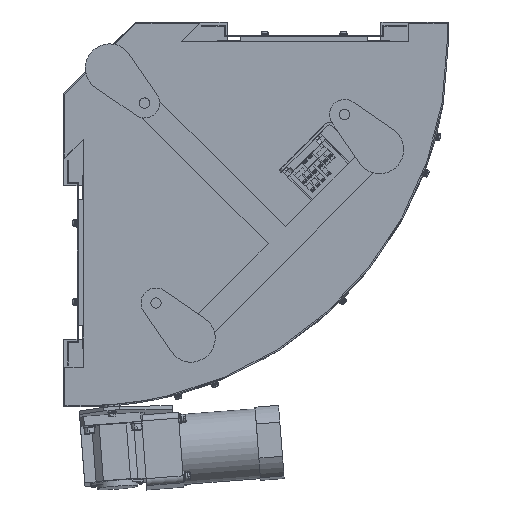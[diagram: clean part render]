
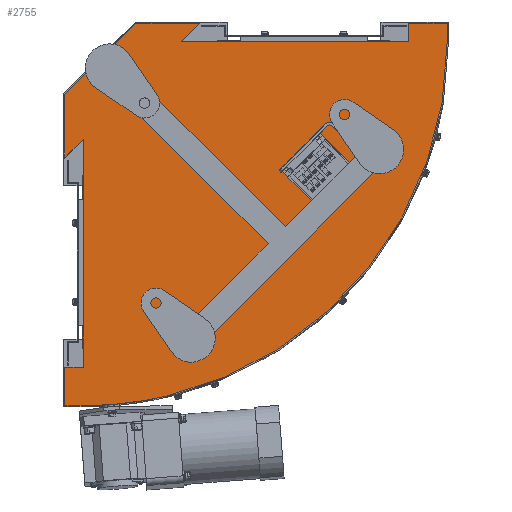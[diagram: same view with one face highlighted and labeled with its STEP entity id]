
A CAD part, front view. The second image highlights one B-rep face of the part: STEP entity #2755.
In plain terms, the highlighted planar face has unit normal (0, -1, 0).
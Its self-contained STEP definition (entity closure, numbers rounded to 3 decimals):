
#2755=ADVANCED_FACE('',(#17473),#17472,.F.);
#17472=PLANE('',#28275);
#17473=FACE_OUTER_BOUND('',#28276,.T.);
#28272=CARTESIAN_POINT('',(-33.4,-145.7,-471.5));
#28273=DIRECTION('',(0.,1.,0.));
#28274=DIRECTION('',(0.,0.,1.));
#28275=AXIS2_PLACEMENT_3D('',#28272,#28273,#28274);
#28276=EDGE_LOOP('',(#37565,#37566,#37567,#37568,#37569,#37570,#37571,#37572,#37573,#37574,#37575,#37576,#37577,#37578,#37579,#37580));
#37565=ORIENTED_EDGE('',*,*,#41988,.F.);
#37566=ORIENTED_EDGE('',*,*,#41994,.T.);
#37567=ORIENTED_EDGE('',*,*,#41995,.T.);
#37568=ORIENTED_EDGE('',*,*,#41996,.T.);
#37569=ORIENTED_EDGE('',*,*,#41920,.F.);
#37570=ORIENTED_EDGE('',*,*,#41922,.T.);
#37571=ORIENTED_EDGE('',*,*,#41997,.T.);
#37572=ORIENTED_EDGE('',*,*,#41998,.T.);
#37573=ORIENTED_EDGE('',*,*,#41999,.T.);
#37574=ORIENTED_EDGE('',*,*,#42000,.T.);
#37575=ORIENTED_EDGE('',*,*,#41991,.F.);
#37576=ORIENTED_EDGE('',*,*,#41978,.T.);
#37577=ORIENTED_EDGE('',*,*,#42001,.T.);
#37578=ORIENTED_EDGE('',*,*,#42002,.T.);
#37579=ORIENTED_EDGE('',*,*,#42003,.T.);
#37580=ORIENTED_EDGE('',*,*,#41982,.T.);
#41920=EDGE_CURVE('',#66002,#65989,#66003,.T.);
#41922=EDGE_CURVE('',#66002,#65962,#66015,.T.);
#41978=EDGE_CURVE('',#66397,#66390,#66398,.T.);
#41982=EDGE_CURVE('',#66370,#66418,#66425,.T.);
#41988=EDGE_CURVE('',#66464,#66418,#66465,.T.);
#41991=EDGE_CURVE('',#66397,#66484,#66485,.T.);
#41994=EDGE_CURVE('',#66464,#66504,#66505,.T.);
#41995=EDGE_CURVE('',#66504,#66511,#66512,.T.);
#41996=EDGE_CURVE('',#66511,#65989,#66518,.T.);
#41997=EDGE_CURVE('',#65962,#66524,#66525,.T.);
#41998=EDGE_CURVE('',#66524,#66531,#66532,.T.);
#41999=EDGE_CURVE('',#66531,#66538,#66539,.T.);
#42000=EDGE_CURVE('',#66538,#66484,#66545,.T.);
#42001=EDGE_CURVE('',#66390,#66551,#66552,.T.);
#42002=EDGE_CURVE('',#66551,#66558,#66559,.T.);
#42003=EDGE_CURVE('',#66558,#66370,#66565,.T.);
#65962=VERTEX_POINT('',#83575);
#65989=VERTEX_POINT('',#83590);
#66002=VERTEX_POINT('',#83597);
#66003=LINE('',#83598,#83599);
#66015=CIRCLE('',#83607,461.5);
#66370=VERTEX_POINT('',#83890);
#66390=VERTEX_POINT('',#83901);
#66397=VERTEX_POINT('',#83905);
#66398=LINE('',#83906,#83907);
#66418=VERTEX_POINT('',#83917);
#66425=LINE('',#83921,#83922);
#66464=VERTEX_POINT('',#83942);
#66465=LINE('',#83943,#83944);
#66484=VERTEX_POINT('',#83953);
#66485=LINE('',#83954,#83955);
#66504=VERTEX_POINT('',#83964);
#66505=LINE('',#83965,#83966);
#66511=VERTEX_POINT('',#83968);
#66512=LINE('',#83969,#83970);
#66518=LINE('',#83972,#83973);
#66524=VERTEX_POINT('',#83975);
#66525=CIRCLE('',#83979,461.5);
#66531=VERTEX_POINT('',#83980);
#66532=LINE('',#83981,#83982);
#66538=VERTEX_POINT('',#83984);
#66539=LINE('',#83985,#83986);
#66545=LINE('',#83988,#83989);
#66551=VERTEX_POINT('',#83991);
#66552=LINE('',#83992,#83993);
#66558=VERTEX_POINT('',#83995);
#66559=LINE('',#83996,#83997);
#66565=LINE('',#83999,#84000);
#83575=CARTESIAN_POINT('',(105.684,-145.7,-449.236));
#83590=CARTESIAN_POINT('',(-7.,-145.7,-461.5));
#83597=CARTESIAN_POINT('',(0.,-145.7,-461.5));
#83598=CARTESIAN_POINT('',(0.,-145.7,-461.5));
#83599=VECTOR('',#83600,7.);
#83600=DIRECTION('',(-1.,0.,0.));
#83604=CARTESIAN_POINT('',(0.,-145.7,0.));
#83605=DIRECTION('',(0.,-1.,0.));
#83606=DIRECTION('',(0.,0.,-1.));
#83607=AXIS2_PLACEMENT_3D('',#83604,#83605,#83606);
#83890=CARTESIAN_POINT('',(-23.4,-145.7,-147.5));
#83901=CARTESIAN_POINT('',(147.5,-145.7,23.4));
#83905=CARTESIAN_POINT('',(124.1,-145.7,0.));
#83906=CARTESIAN_POINT('',(124.1,-145.7,0.));
#83907=VECTOR('',#83908,33.093);
#83908=DIRECTION('',(0.707,0.,0.707));
#83917=CARTESIAN_POINT('',(0.,-145.7,-124.1));
#83921=CARTESIAN_POINT('',(-23.4,-145.7,-147.5));
#83922=VECTOR('',#83923,33.093);
#83923=DIRECTION('',(0.707,0.,0.707));
#83942=CARTESIAN_POINT('',(0.,-145.7,-412.5));
#83943=CARTESIAN_POINT('',(0.,-145.7,-412.5));
#83944=VECTOR('',#83945,288.4);
#83945=DIRECTION('',(0.,0.,1.));
#83953=CARTESIAN_POINT('',(412.5,-145.7,0.));
#83954=CARTESIAN_POINT('',(124.1,-145.7,0.));
#83955=VECTOR('',#83956,288.4);
#83956=DIRECTION('',(1.,0.,0.));
#83964=CARTESIAN_POINT('',(-23.4,-145.7,-412.5));
#83965=CARTESIAN_POINT('',(0.,-145.7,-412.5));
#83966=VECTOR('',#83967,23.4);
#83967=DIRECTION('',(-1.,0.,0.));
#83968=CARTESIAN_POINT('',(-23.4,-145.7,-461.5));
#83969=CARTESIAN_POINT('',(-23.4,-145.7,-412.5));
#83970=VECTOR('',#83971,49.);
#83971=DIRECTION('',(0.,0.,-1.));
#83972=CARTESIAN_POINT('',(-23.4,-145.7,-461.5));
#83973=VECTOR('',#83974,16.4);
#83974=DIRECTION('',(1.,0.,0.));
#83975=CARTESIAN_POINT('',(461.5,-145.7,0.));
#83976=CARTESIAN_POINT('',(0.,-145.7,0.));
#83977=DIRECTION('',(0.,-1.,0.));
#83978=DIRECTION('',(0.,0.,-1.));
#83979=AXIS2_PLACEMENT_3D('',#83976,#83977,#83978);
#83980=CARTESIAN_POINT('',(461.5,-145.7,23.4));
#83981=CARTESIAN_POINT('',(461.5,-145.7,0.));
#83982=VECTOR('',#83983,23.4);
#83983=DIRECTION('',(0.,0.,1.));
#83984=CARTESIAN_POINT('',(412.5,-145.7,23.4));
#83985=CARTESIAN_POINT('',(461.5,-145.7,23.4));
#83986=VECTOR('',#83987,49.);
#83987=DIRECTION('',(-1.,0.,0.));
#83988=CARTESIAN_POINT('',(412.5,-145.7,23.4));
#83989=VECTOR('',#83990,23.4);
#83990=DIRECTION('',(0.,0.,-1.));
#83991=CARTESIAN_POINT('',(66.663,-145.7,23.4));
#83992=CARTESIAN_POINT('',(147.5,-145.7,23.4));
#83993=VECTOR('',#83994,80.837);
#83994=DIRECTION('',(-1.,0.,0.));
#83995=CARTESIAN_POINT('',(-23.4,-145.7,-66.663));
#83996=CARTESIAN_POINT('',(66.663,-145.7,23.4));
#83997=VECTOR('',#83998,127.368);
#83998=DIRECTION('',(-0.707,0.,-0.707));
#83999=CARTESIAN_POINT('',(-23.4,-145.7,-66.663));
#84000=VECTOR('',#84001,80.837);
#84001=DIRECTION('',(0.,0.,-1.));
